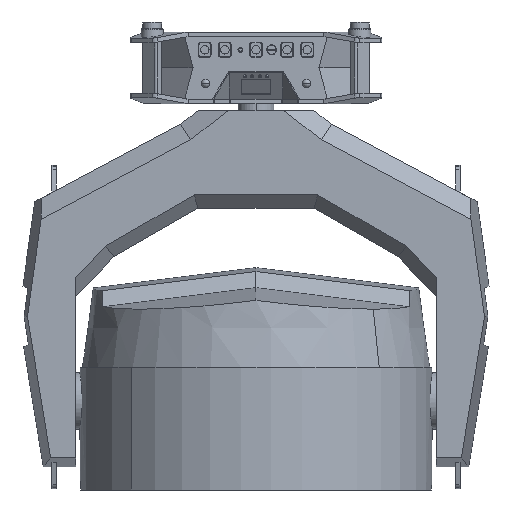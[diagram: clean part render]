
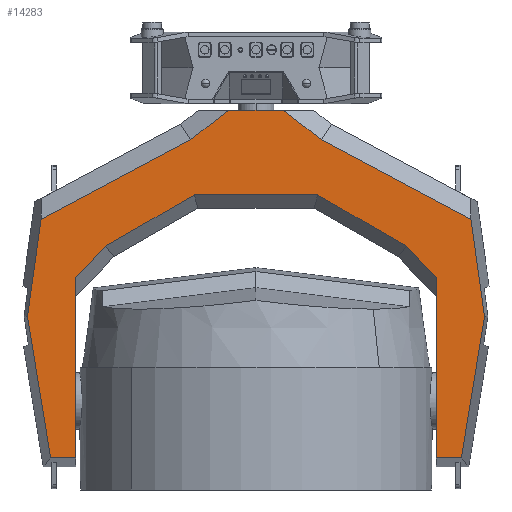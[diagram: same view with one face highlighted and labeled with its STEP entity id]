
A CAD part, front view. The second image highlights one B-rep face of the part: STEP entity #14283.
In plain terms, the highlighted planar face has unit normal (0, -1, 0).
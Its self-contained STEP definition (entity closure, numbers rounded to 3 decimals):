
#12692=DIRECTION('',(1.,0.,0.));
#12693=VECTOR('',#12692,56.072);
#12694=CARTESIAN_POINT('',(-460.072,-125.,-954.05));
#12695=LINE('',#12694,#12693);
#12696=DIRECTION('',(0.161,0.,-0.987));
#12697=VECTOR('',#12696,321.163);
#12698=CARTESIAN_POINT('',(-511.918,-125.,-637.099));
#12699=LINE('',#12698,#12697);
#12700=DIRECTION('',(-0.138,0.,-0.99));
#12701=VECTOR('',#12700,220.041);
#12702=CARTESIAN_POINT('',(-481.447,-125.,-419.179));
#12703=LINE('',#12702,#12701);
#12704=DIRECTION('',(-0.883,0.,-0.47));
#12705=VECTOR('',#12704,379.511);
#12706=CARTESIAN_POINT('',(-146.389,-125.,-240.95));
#12707=LINE('',#12706,#12705);
#12708=DIRECTION('',(-0.793,0.,-0.61));
#12709=VECTOR('',#12708,107.36);
#12710=CARTESIAN_POINT('',(-61.295,-125.,-175.49));
#12711=LINE('',#12710,#12709);
#12712=DIRECTION('',(1.,0.,0.));
#12713=VECTOR('',#12712,122.59);
#12714=CARTESIAN_POINT('',(-61.295,-125.,-175.49));
#12715=LINE('',#12714,#12713);
#12716=DIRECTION('',(-0.793,0.,0.61));
#12717=VECTOR('',#12716,107.36);
#12718=CARTESIAN_POINT('',(146.389,-125.,-240.95));
#12719=LINE('',#12718,#12717);
#12720=DIRECTION('',(-0.883,0.,0.47));
#12721=VECTOR('',#12720,379.511);
#12722=CARTESIAN_POINT('',(481.447,-125.,-419.179));
#12723=LINE('',#12722,#12721);
#12724=DIRECTION('',(-0.138,0.,0.99));
#12725=VECTOR('',#12724,220.041);
#12726=CARTESIAN_POINT('',(511.918,-125.,-637.099));
#12727=LINE('',#12726,#12725);
#12728=DIRECTION('',(0.161,0.,0.987));
#12729=VECTOR('',#12728,321.163);
#12730=CARTESIAN_POINT('',(460.072,-125.,-954.05));
#12731=LINE('',#12730,#12729);
#12732=DIRECTION('',(1.,0.,0.));
#12733=VECTOR('',#12732,56.072);
#12734=CARTESIAN_POINT('',(404.,-125.,-954.05));
#12735=LINE('',#12734,#12733);
#12736=DIRECTION('',(0.693,0.,-0.721));
#12737=VECTOR('',#12736,96.684);
#12738=CARTESIAN_POINT('',(336.959,-125.,-479.539));
#12739=LINE('',#12738,#12737);
#12740=DIRECTION('',(0.866,0.,-0.5));
#12741=VECTOR('',#12740,229.578);
#12742=CARTESIAN_POINT('',(138.138,-125.,-364.75));
#12743=LINE('',#12742,#12741);
#12744=DIRECTION('',(1.,0.,0.));
#12745=VECTOR('',#12744,276.277);
#12746=CARTESIAN_POINT('',(-138.138,-125.,-364.75));
#12747=LINE('',#12746,#12745);
#12748=DIRECTION('',(0.866,0.,0.5));
#12749=VECTOR('',#12748,229.578);
#12750=CARTESIAN_POINT('',(-336.959,-125.,-479.539));
#12751=LINE('',#12750,#12749);
#12752=DIRECTION('',(0.693,0.,0.721));
#12753=VECTOR('',#12752,96.684);
#12754=CARTESIAN_POINT('',(-404.,-125.,-549.205));
#12755=LINE('',#12754,#12753);
#12960=DIRECTION('',(0.,0.,1.));
#12961=VECTOR('',#12960,404.845);
#12962=CARTESIAN_POINT('',(-404.,-125.,-954.05));
#12963=LINE('',#12962,#12961);
#13152=DIRECTION('',(0.,0.,-1.));
#13153=VECTOR('',#13152,404.845);
#13154=CARTESIAN_POINT('',(404.,-125.,-549.205));
#13155=LINE('',#13154,#13153);
#13916=CARTESIAN_POINT('',(-404.,-125.,-549.205));
#13917=CARTESIAN_POINT('',(-336.959,-125.,-479.539));
#13918=VERTEX_POINT('',#13916);
#13919=VERTEX_POINT('',#13917);
#13924=CARTESIAN_POINT('',(-138.138,-125.,-364.75));
#13925=VERTEX_POINT('',#13924);
#13930=CARTESIAN_POINT('',(138.138,-125.,-364.75));
#13931=VERTEX_POINT('',#13930);
#13934=CARTESIAN_POINT('',(336.959,-125.,-479.539));
#13935=VERTEX_POINT('',#13934);
#13938=CARTESIAN_POINT('',(404.,-125.,-549.205));
#13939=VERTEX_POINT('',#13938);
#13953=CARTESIAN_POINT('',(481.447,-125.,-419.179));
#13955=VERTEX_POINT('',#13953);
#13956=CARTESIAN_POINT('',(146.389,-125.,-240.95));
#13957=VERTEX_POINT('',#13956);
#13960=CARTESIAN_POINT('',(61.295,-125.,-175.49));
#13962=VERTEX_POINT('',#13960);
#13965=CARTESIAN_POINT('',(-61.295,-125.,-175.49));
#13967=VERTEX_POINT('',#13965);
#13968=CARTESIAN_POINT('',(-146.389,-125.,-240.95));
#13969=VERTEX_POINT('',#13968);
#13972=CARTESIAN_POINT('',(-481.447,-125.,-419.179));
#13974=VERTEX_POINT('',#13972);
#13990=CARTESIAN_POINT('',(-511.918,-125.,-637.099));
#13991=VERTEX_POINT('',#13990);
#13994=CARTESIAN_POINT('',(511.918,-125.,-637.099));
#13995=VERTEX_POINT('',#13994);
#14072=CARTESIAN_POINT('',(-460.072,-125.,-954.05));
#14073=VERTEX_POINT('',#14072);
#14074=CARTESIAN_POINT('',(-404.,-125.,-954.05));
#14075=VERTEX_POINT('',#14074);
#14084=CARTESIAN_POINT('',(404.,-125.,-954.05));
#14085=VERTEX_POINT('',#14084);
#14086=CARTESIAN_POINT('',(460.072,-125.,-954.05));
#14087=VERTEX_POINT('',#14086);
#14240=CARTESIAN_POINT('',(0.,-125.,0.));
#14241=DIRECTION('',(0.,1.,0.));
#14242=DIRECTION('',(0.,0.,-1.));
#14243=AXIS2_PLACEMENT_3D('',#14240,#14241,#14242);
#14244=PLANE('',#14243);
#14246=ORIENTED_EDGE('',*,*,#14245,.F.);
#14248=ORIENTED_EDGE('',*,*,#14247,.F.);
#14250=ORIENTED_EDGE('',*,*,#14249,.F.);
#14252=ORIENTED_EDGE('',*,*,#14251,.F.);
#14254=ORIENTED_EDGE('',*,*,#14253,.F.);
#14256=ORIENTED_EDGE('',*,*,#14255,.T.);
#14258=ORIENTED_EDGE('',*,*,#14257,.F.);
#14260=ORIENTED_EDGE('',*,*,#14259,.F.);
#14262=ORIENTED_EDGE('',*,*,#14261,.F.);
#14264=ORIENTED_EDGE('',*,*,#14263,.F.);
#14266=ORIENTED_EDGE('',*,*,#14265,.F.);
#14268=ORIENTED_EDGE('',*,*,#14267,.F.);
#14270=ORIENTED_EDGE('',*,*,#14269,.F.);
#14272=ORIENTED_EDGE('',*,*,#14271,.F.);
#14274=ORIENTED_EDGE('',*,*,#14273,.F.);
#14276=ORIENTED_EDGE('',*,*,#14275,.F.);
#14278=ORIENTED_EDGE('',*,*,#14277,.F.);
#14280=ORIENTED_EDGE('',*,*,#14279,.F.);
#14281=EDGE_LOOP('',(#14246,#14248,#14250,#14252,#14254,#14256,#14258,#14260,
#14262,#14264,#14266,#14268,#14270,#14272,#14274,#14276,#14278,#14280));
#14282=FACE_OUTER_BOUND('',#14281,.F.);
#14245=EDGE_CURVE('',#14073,#14075,#12695,.T.);
#14247=EDGE_CURVE('',#13991,#14073,#12699,.T.);
#14249=EDGE_CURVE('',#13974,#13991,#12703,.T.);
#14251=EDGE_CURVE('',#13969,#13974,#12707,.T.);
#14253=EDGE_CURVE('',#13967,#13969,#12711,.T.);
#14255=EDGE_CURVE('',#13967,#13962,#12715,.T.);
#14257=EDGE_CURVE('',#13957,#13962,#12719,.T.);
#14259=EDGE_CURVE('',#13955,#13957,#12723,.T.);
#14261=EDGE_CURVE('',#13995,#13955,#12727,.T.);
#14263=EDGE_CURVE('',#14087,#13995,#12731,.T.);
#14265=EDGE_CURVE('',#14085,#14087,#12735,.T.);
#14267=EDGE_CURVE('',#13939,#14085,#13155,.T.);
#14269=EDGE_CURVE('',#13935,#13939,#12739,.T.);
#14271=EDGE_CURVE('',#13931,#13935,#12743,.T.);
#14273=EDGE_CURVE('',#13925,#13931,#12747,.T.);
#14275=EDGE_CURVE('',#13919,#13925,#12751,.T.);
#14277=EDGE_CURVE('',#13918,#13919,#12755,.T.);
#14279=EDGE_CURVE('',#14075,#13918,#12963,.T.);
#14283=ADVANCED_FACE('',(#14282),#14244,.F.);
